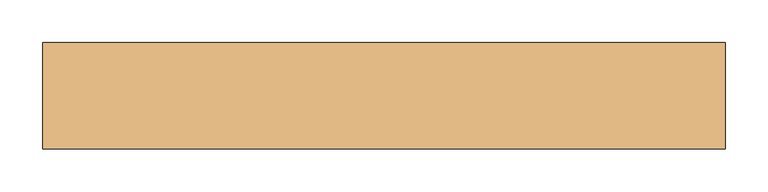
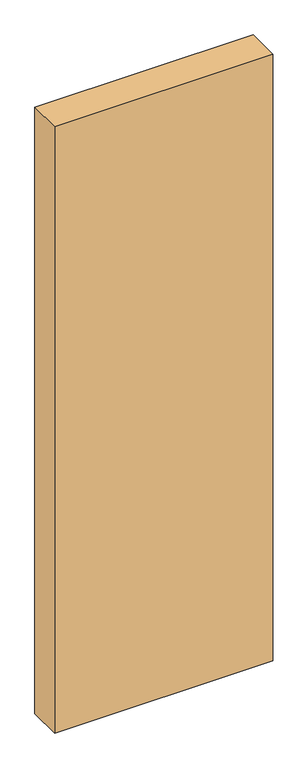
"""IFC4 building model written with IfcOpenShell, lengths in millimetres: door geometry, Dr_Проем-Простой : ДВ."""

from ifc_helpers import new_model, si_unit, frame, origin, place, context, project, spatial, polyline, outline, extrude, source, transform, mapped, element, save


def door_17a41f1e(model_context):
    return source(origin(), model_context, "Body", "SweptSolid", [
        extrude(outline(polyline([(605.3230163, 62.5), (605.3230163, -62.5), (-194.6769837, -62.5), (-194.6769837, 62.5), (605.3230163, 62.5)])), frame((0.0, 0.0, -250.0), z_axis=(0.0, 0.0, 1.0), x_axis=(1.0, 0.0, 0.0)), (0.0, 0.0, 1.0), 2350.0),
    ])


if __name__ == "__main__":
    model = new_model("IFC4")
    model_context = context("Model", 3, world=origin())
    ifc_project = project(units=[si_unit("LENGTHUNIT", "METRE", prefix="MILLI")], contexts=[model_context])
    site = spatial("IfcSite", under=ifc_project)
    building = spatial("IfcBuilding", under=site)
    placement = place(None, origin())
    door_shape = door_17a41f1e(model_context)
    element("IfcDoor", 1, ObjectType="Dr_Проем-Простой : ДВ", at=placement, inside=building, context=model_context, shape_type="MappedRepresentation", body=[
        mapped(door_shape, transform((0.0, 0.0, 0.0), x_axis=(1.0, 0.0, 0.0), y_axis=(0.0, 1.0, 0.0), z_axis=(0.0, 0.0, 1.0))),
    ])
    save(model, "model.ifc")
